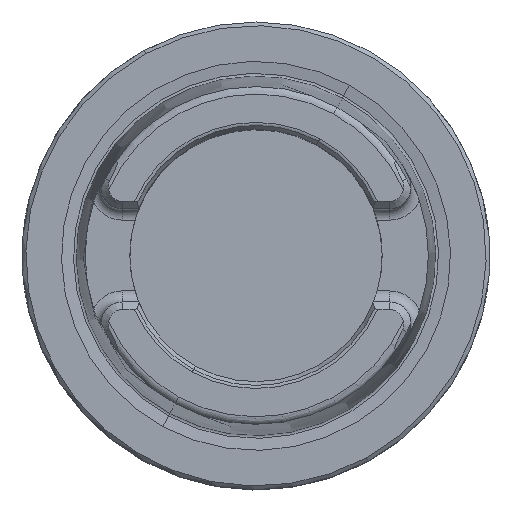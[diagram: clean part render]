
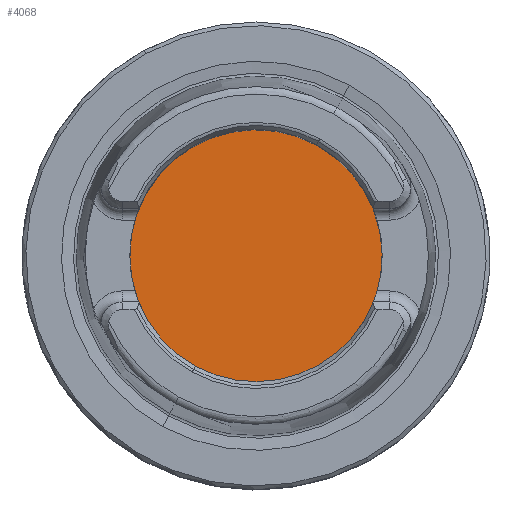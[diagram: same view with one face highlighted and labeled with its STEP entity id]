
A CAD part, top view. The second image highlights one B-rep face of the part: STEP entity #4068.
In plain terms, the highlighted planar face has unit normal (0, 0, 1).
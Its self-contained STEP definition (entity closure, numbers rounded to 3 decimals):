
#4048=AXIS2_PLACEMENT_3D('Plane Axis2P3D',#4045,#4046,#4047) ;
#4052=AXIS2_PLACEMENT_3D('Circle Axis2P3D',#4050,#4051,$) ;
#4061=AXIS2_PLACEMENT_3D('Circle Axis2P3D',#4059,#4060,$) ;
#4045=CARTESIAN_POINT('Axis2P3D Location',(0.,-15.75,-10.)) ;
#4050=CARTESIAN_POINT('Axis2P3D Location',(0.,0.,-10.)) ;
#4054=CARTESIAN_POINT('Vertex',(8.15,14.919,-10.)) ;
#4056=CARTESIAN_POINT('Vertex',(-8.15,-14.919,-10.)) ;
#4059=CARTESIAN_POINT('Axis2P3D Location',(0.,0.,-10.)) ;
#4046=DIRECTION('Axis2P3D Direction',(0.,0.,-1.)) ;
#4047=DIRECTION('Axis2P3D XDirection',(-1.,0.,0.)) ;
#4051=DIRECTION('Axis2P3D Direction',(0.,0.,-1.)) ;
#4060=DIRECTION('Axis2P3D Direction',(0.,0.,-1.)) ;
#4065=ORIENTED_EDGE('',*,*,#4058,.T.) ;
#4066=ORIENTED_EDGE('',*,*,#4063,.T.) ;
#4068=ADVANCED_FACE('NO_CUT',(#4067),#4049,.F.) ;
#4053=CIRCLE('generated circle',#4052,17.) ;
#4062=CIRCLE('generated circle',#4061,17.) ;
#4058=EDGE_CURVE('',#4055,#4057,#4053,.F.) ;
#4063=EDGE_CURVE('',#4057,#4055,#4062,.F.) ;
#4064=EDGE_LOOP('',(#4065,#4066)) ;
#4067=FACE_OUTER_BOUND('',#4064,.T.) ;
#4049=PLANE('',#4048) ;
#4055=VERTEX_POINT('',#4054) ;
#4057=VERTEX_POINT('',#4056) ;
